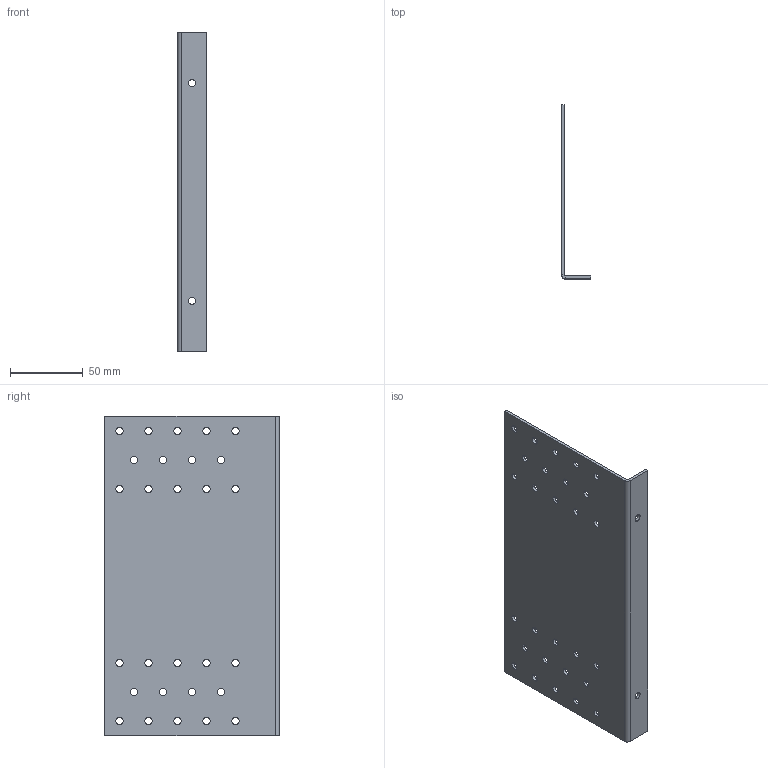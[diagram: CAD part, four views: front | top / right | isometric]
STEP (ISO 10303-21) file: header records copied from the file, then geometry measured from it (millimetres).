
FILE_DESCRIPTION (( 'STEP AP203' ), '1' );
FILE_NAME ('212.STEP', '2020-04-17T13:24:47', ( '' ), ( '' ), 'SwSTEP 2.0', 'SolidWorks 2013', '' );
FILE_SCHEMA (( 'CONFIG_CONTROL_DESIGN' ));
Length unit declared in the file: millimetre
Products named in the file (1): 212
Bounding box: 20 x 120 x 220 mm (x, y, z)
Volume: 59214.8 mm3; surface area: 61586.3 mm2
Topology: 1 solids, 1 shells, 74 faces, 208 edges, 136 vertices
Faces by surface type: cylinder 62, plane 12
Entity records: 2649 total; most frequent: DIRECTION 482, CARTESIAN_POINT 419, ORIENTED_EDGE 416, EDGE_CURVE 208, AXIS2_PLACEMENT_3D 199, VERTEX_POINT 136, EDGE_LOOP 134, CIRCLE 124
